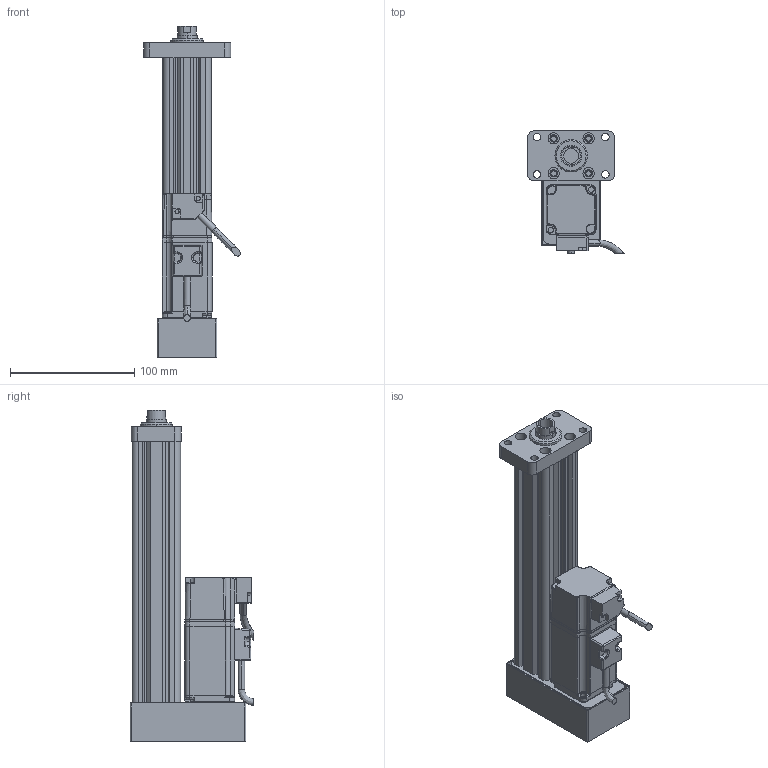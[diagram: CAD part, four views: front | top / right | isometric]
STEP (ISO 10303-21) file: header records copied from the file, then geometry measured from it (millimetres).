
FILE_DESCRIPTION (( 'STEP AP214' ), '1' );
FILE_NAME ('039-S150-D02-B-M3-C2-2.STEP', '2021-02-25T08:44:24', ( '' ), ( '' ), 'SwSTEP 2.0', 'SolidWorks 2018', '' );
FILE_SCHEMA (( 'AUTOMOTIVE_DESIGN' ));
Length unit declared in the file: millimetre
Products named in the file (7): CMC039-GT; CMC039-XT; 039-S150-D02-B-M3-C2-2; CMC039-DT; ECMA-CX0401ES-40框號系列機種-100W低慣量系列; CMC039-LJB; CMC039-FL
Assembly tree (6 placements, depth 2):
  039-S150-D02-B-M3-C2-2
    CMC039-GT
    CMC039-LJB
    CMC039-XT
    CMC039-FL
    CMC039-DT
    ECMA-CX0401ES-40框號系列機種-100W低慣量系列
Bounding box: 77.84 x 99.39 x 266 mm (x, y, z)
Volume: 422700.7 mm3; surface area: 150903.8 mm2
Topology: 6 solids, 14 shells, 612 faces, 1592 edges, 989 vertices
Faces by surface type: cylinder 250, plane 239, bspline 84, cone 39
Entity records: 24722 total; most frequent: CARTESIAN_POINT 10684, ORIENTED_EDGE 3118, DIRECTION 2445, EDGE_CURVE 1559, VERTEX_POINT 989, AXIS2_PLACEMENT_3D 837, LINE 771, VECTOR 771
